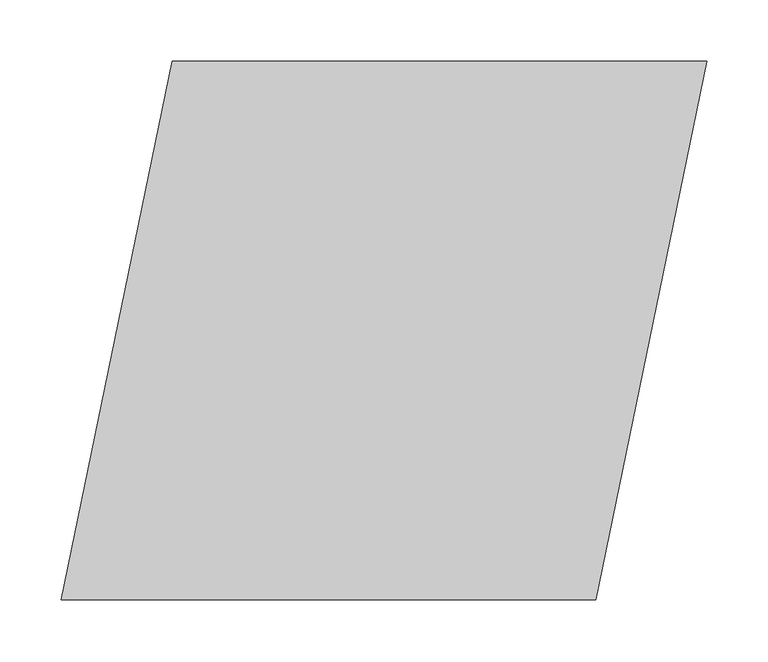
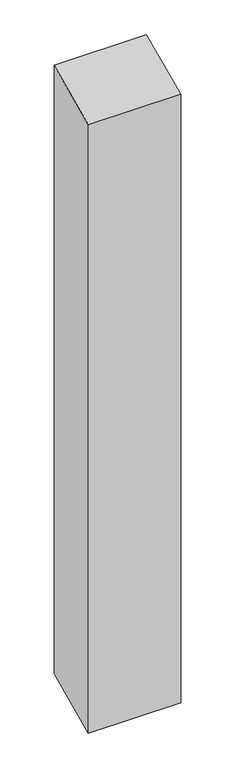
"""IFC4 building model written with IfcOpenShell, lengths in millimetres: column geometry, COLUMN - NORTHEAST CORNER : COLUMN - NORTHEAST CORNER."""

import ifcopenshell
import ifcopenshell.guid

model = None  # the IFC model being written
_history = None  # IfcOwnerHistory: only IFC2X3 demands one
_inside = {}  # id of a spatial element -> (the spatial element, [elements in it])
_under = {}  # id of a project, library or spatial element -> (it, [spatial elements below it])
_declared = {}  # id of a project -> (the project, [libraries it declares])
_typed = {}  # id of a type object -> (the type object, [elements of that type])
_made_of = {}  # id of a material, layer set ... -> (it, [elements and type objects made of it])


def new_model(schema):
    """Start an empty IFC model of exactly this schema.

    Asked for "IFC4X3", IfcOpenShell would pick the latest addendum, in which some entities
    have other attributes; the version numbers below select the first issue.
    IFC2X3 requires an IfcOwnerHistory on every rooted entity: one is made here for all.
    """
    global model, _history
    if schema == "IFC4X3":
        model = ifcopenshell.file(schema_version=(4, 3, 0, 0))
    else:
        model = ifcopenshell.file(schema=schema)
    _inside.clear()
    _under.clear()
    _declared.clear()
    _typed.clear()
    _made_of.clear()
    _history = None
    if model.schema == "IFC2X3":
        org = make("IfcOrganization", Name="unknown")
        user = make(
            "IfcPersonAndOrganization",
            ThePerson=make("IfcPerson", FamilyName="unknown"),
            TheOrganization=org,
        )
        app = make(
            "IfcApplication",
            ApplicationDeveloper=org,
            Version="unknown",
            ApplicationFullName="unknown",
            ApplicationIdentifier="unknown",
        )
        _history = make(
            "IfcOwnerHistory",
            OwningUser=user,
            OwningApplication=app,
            ChangeAction="ADDED",
            CreationDate=0,
        )
    return model


def make(cls, **values):
    """One entity of the class cls with the attributes given. An attribute that is None is left unset."""
    return model.create_entity(
        cls, **{name: value for name, value in values.items() if value is not None}
    )


def rooted(cls, **values):
    """An entity with a GlobalId (a new one), such as an element, a storey or a relation."""
    return make(cls, GlobalId=ifcopenshell.guid.new(), OwnerHistory=_history, **values)


def si_unit(unit_type, name, prefix=None):
    """IfcSIUnit, for example si_unit("LENGTHUNIT", "METRE", prefix="MILLI")."""
    return make("IfcSIUnit", UnitType=unit_type, Prefix=prefix, Name=name)


def assignment(units):
    """IfcUnitAssignment: the units of a project."""
    return None if units is None else make("IfcUnitAssignment", Units=units)


def point(xyz):
    """IfcCartesianPoint."""
    return None if xyz is None else make("IfcCartesianPoint", Coordinates=xyz)


def direction(xyz):
    """IfcDirection."""
    return None if xyz is None else make("IfcDirection", DirectionRatios=xyz)


def frame(location, z_axis=None, x_axis=None):
    """IfcAxis2Placement3D, a coordinate frame: its origin and axes. An axis left out is left unset."""
    return make(
        "IfcAxis2Placement3D",
        Location=point(location),
        Axis=direction(z_axis),
        RefDirection=direction(x_axis),
    )


def origin():
    """The frame at (0, 0, 0) with its axes left unset."""
    return frame((0.0, 0.0, 0.0))


def origin_with_axes():
    """The frame at (0, 0, 0) with the z axis (0, 0, 1) and the x axis (1, 0, 0) written out."""
    return frame((0.0, 0.0, 0.0), z_axis=(0.0, 0.0, 1.0), x_axis=(1.0, 0.0, 0.0))


def place(relative_to, where):
    """IfcLocalPlacement: puts the frame where relative to a parent placement (None: the world)."""
    return make(
        "IfcLocalPlacement", PlacementRelTo=relative_to, RelativePlacement=where
    )


def context(
    kind, dimensions, precision=None, world=None, true_north=None, identifier=None
):
    """IfcGeometricRepresentationContext, for example the 3D "Model" context."""
    return make(
        "IfcGeometricRepresentationContext",
        ContextIdentifier=identifier,
        ContextType=kind,
        CoordinateSpaceDimension=dimensions,
        Precision=precision,
        WorldCoordinateSystem=world,
        TrueNorth=true_north,
    )


def project(units=None, contexts=None):
    """IfcProject with its units and contexts."""
    return rooted(
        "IfcProject",
        Name="project",
        RepresentationContexts=contexts,
        UnitsInContext=assignment(units),
    )


def spatial(cls, under=None, at=None, **own):
    """A site, building, storey or space (cls), placed at a placement, below another one or the project."""
    s = rooted(cls, ObjectPlacement=at, **own)
    if under is not None:
        _under.setdefault(under.id(), (under, []))[1].append(s)
    return s


def polyline(points):
    """IfcPolyline through the points."""
    return make("IfcPolyline", Points=[point(p) for p in points])


def outline(outer, holes=None, kind="AREA"):
    """IfcArbitraryClosedProfileDef: a profile drawn as a closed curve; with holes, ...WithVoids."""
    if holes is None:
        return make("IfcArbitraryClosedProfileDef", ProfileType=kind, OuterCurve=outer)
    return make(
        "IfcArbitraryProfileDefWithVoids",
        ProfileType=kind,
        OuterCurve=outer,
        InnerCurves=holes,
    )


def extrude(swept, where, along, depth):
    """IfcExtrudedAreaSolid: the profile swept, set in the frame where, extruded along a direction by depth."""
    return make(
        "IfcExtrudedAreaSolid",
        SweptArea=swept,
        Position=where,
        ExtrudedDirection=direction(along),
        Depth=depth,
    )


def shape(context_of_items, identifier, shape_type, items):
    """IfcShapeRepresentation: the items that make up one representation, for example the "Body"."""
    return make(
        "IfcShapeRepresentation",
        ContextOfItems=context_of_items,
        RepresentationIdentifier=identifier,
        RepresentationType=shape_type,
        Items=items,
    )


def source(mapping_origin, context_of_items, identifier, shape_type, items):
    """IfcRepresentationMap: a shape defined once, which mapped items show again and again."""
    return make(
        "IfcRepresentationMap",
        MappingOrigin=mapping_origin,
        MappedRepresentation=shape(context_of_items, identifier, shape_type, items),
    )


def transform(
    local_origin,
    x_axis=None,
    y_axis=None,
    z_axis=None,
    scale=None,
    scale2=None,
    scale3=None,
    uniform=True,
):
    """IfcCartesianTransformationOperator3D, or its non-uniform kind. x_axis, y_axis, z_axis: its Axis1, 2, 3."""
    if uniform:
        return make(
            "IfcCartesianTransformationOperator3D",
            Axis1=direction(x_axis),
            Axis2=direction(y_axis),
            LocalOrigin=point(local_origin),
            Scale=scale,
            Axis3=direction(z_axis),
        )
    return make(
        "IfcCartesianTransformationOperator3DnonUniform",
        Axis1=direction(x_axis),
        Axis2=direction(y_axis),
        LocalOrigin=point(local_origin),
        Scale=scale,
        Axis3=direction(z_axis),
        Scale2=scale2,
        Scale3=scale3,
    )


def mapped(mapping_source, mapping_target):
    """IfcMappedItem: shows the shape of a source again, moved by a transform."""
    return make(
        "IfcMappedItem", MappingSource=mapping_source, MappingTarget=mapping_target
    )


def made_of(thing, what):
    """Note that an element or type object is made of a material, layer set ...; save() writes the relation."""
    if what is not None:
        _made_of.setdefault(what.id(), (what, []))[1].append(thing)
    return thing


def element(
    cls,
    number,
    at=None,
    inside=None,
    cuts=None,
    type_object=None,
    material=None,
    context=None,
    identifier="Body",
    shape_type=None,
    held_by="IfcProductDefinitionShape",
    body=None,
    shapes=None,
    **own,
):
    """One element of the class cls, such as IfcWall. Its Tag is "e" and its number.

    at: its placement. inside: the storey or other place that contains it. cuts: it is an
    opening in that element (IfcRelVoidsElement). A single representation is given by context,
    identifier, shape_type and body (its items); several are given by shapes. held_by: the class
    of the entity that holds the representations. save() writes the other relations.
    """
    e = rooted(cls, Tag="e%d" % number, ObjectPlacement=at, **own)
    if body is not None:
        shapes = [shape(context, identifier, shape_type, body)]
    if shapes is not None:
        e.Representation = make(held_by, Representations=shapes)
    if inside is not None:
        _inside.setdefault(inside.id(), (inside, []))[1].append(e)
    if cuts is not None:
        rooted(
            "IfcRelVoidsElement", RelatingBuildingElement=cuts, RelatedOpeningElement=e
        )
    if type_object is not None:
        _typed.setdefault(type_object.id(), (type_object, []))[1].append(e)
    return made_of(e, material)


def aggregate(whole, parts):
    """IfcRelAggregates: a whole, such as a stair, and the parts it consists of."""
    return rooted("IfcRelAggregates", RelatingObject=whole, RelatedObjects=parts)


def save(model, path):
    """Write the relations noted so far, then the file.

    IfcRelAggregates (storeys below a building ...), IfcRelContainedInSpatialStructure (elements
    in a storey), IfcRelDefinesByType, IfcRelAssociatesMaterial and IfcRelDeclares: one each for
    every whole, place, type object, material and project.
    """
    for whole, parts in _under.values():
        aggregate(whole, parts)
    for where, things in _inside.values():
        rooted(
            "IfcRelContainedInSpatialStructure",
            RelatedElements=things,
            RelatingStructure=where,
        )
    for kind, things in _typed.values():
        rooted("IfcRelDefinesByType", RelatedObjects=things, RelatingType=kind)
    for what, things in _made_of.values():
        rooted("IfcRelAssociatesMaterial", RelatedObjects=things, RelatingMaterial=what)
    for by, libraries in _declared.values():
        rooted("IfcRelDeclares", RelatingContext=by, RelatedDefinitions=libraries)
    model.write(path)


def column_79061b7a(model_context):
    return source(origin(), model_context, "Body", "SweptSolid", [
        extrude(outline(polyline([(23565.0152202, 116952.4080809), (23655.858811, 117392.3555855), (24092.387444, 117392.3555855), (24001.5438533, 116952.4080809), (23565.0152202, 116952.4080809)])), origin_with_axes(), (0.0, 0.0, 1.0), 3048.0),
    ])


if __name__ == "__main__":
    model = new_model("IFC4")
    model_context = context("Model", 3, world=origin())
    ifc_project = project(units=[si_unit("LENGTHUNIT", "METRE", prefix="MILLI")], contexts=[model_context])
    site = spatial("IfcSite", under=ifc_project)
    building = spatial("IfcBuilding", under=site)
    placement = place(None, origin())
    column_shape = column_79061b7a(model_context)
    element("IfcColumn", 1, ObjectType="COLUMN - NORTHEAST CORNER : COLUMN - NORTHEAST CORNER", at=placement, inside=building, context=model_context, shape_type="MappedRepresentation", body=[
        mapped(column_shape, transform((0.0, 0.0, 0.0), x_axis=(1.0, 0.0, 0.0), y_axis=(0.0, 1.0, 0.0), z_axis=(0.0, 0.0, 1.0))),
    ])
    save(model, "model.ifc")
